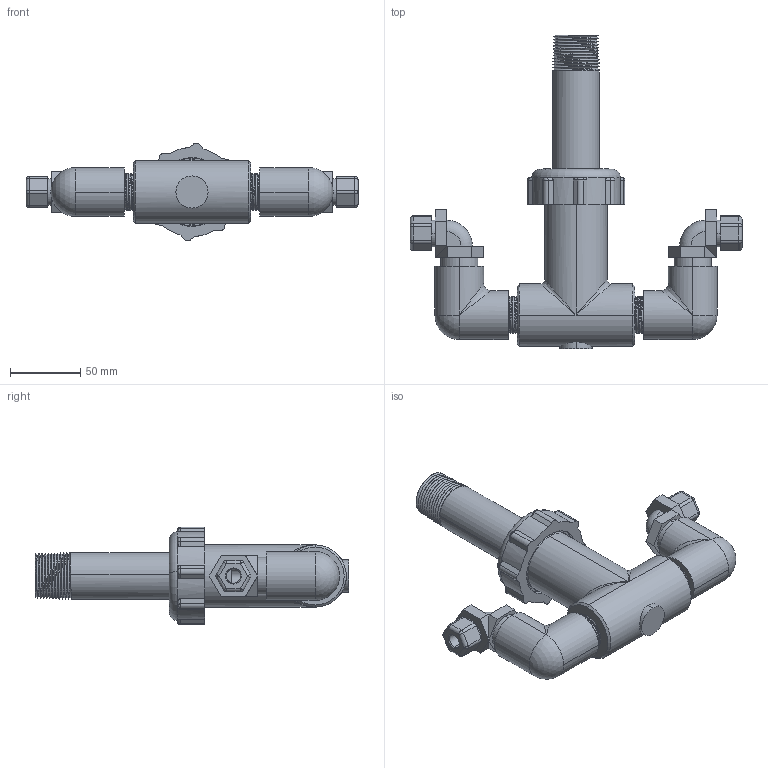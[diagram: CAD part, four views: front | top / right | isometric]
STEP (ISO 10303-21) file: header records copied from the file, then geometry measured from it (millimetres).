
FILE_DESCRIPTION (( 'STEP AP203' ), '1' );
FILE_NAME ('SHELL-191804.STEP', '2019-09-12T17:31:52', ( '' ), ( '' ), 'SwSTEP 2.0', 'SolidWorks 2019', '' );
FILE_SCHEMA (( 'CONFIG_CONTROL_DESIGN' ));
Length unit declared in the file: inch
Products named in the file (12): SHELL-102586; SHELL-102884; 192606-PIN; SHELL-102594; SHELL-WEL-XXX-NN; SHELL-102884wo; SHELL-103778; SHELL-102547; SHELL-191652; SHELL-103425_4882K14; SHELL-191804; SHELL-102423
Assembly tree (14 placements, depth 3):
  SHELL-191804
    SHELL-102884wo
      SHELL-102884
      SHELL-102594
    SHELL-102547  x2
    SHELL-103425_4882K14  x2
    SHELL-102423  x2
    SHELL-102586
    SHELL-191652
      192606-PIN
      SHELL-WEL-XXX-NN
      SHELL-103778
Bounding box: 236.67 x 223.77 x 69.56 mm (x, y, z)
Volume: 407458.9 mm3; surface area: 163110.6 mm2
Topology: 12 solids, 12 shells, 1048 faces, 2823 edges, 1812 vertices
Faces by surface type: cylinder 395, plane 379, cone 185, bspline 38, torus 35, sphere 16
Entity records: 56340 total; most frequent: CARTESIAN_POINT 34243, ORIENTED_EDGE 4526, DIRECTION 4168, EDGE_CURVE 2263, VERTEX_POINT 1464, AXIS2_PLACEMENT_3D 1454, LINE 1260, VECTOR 1260
